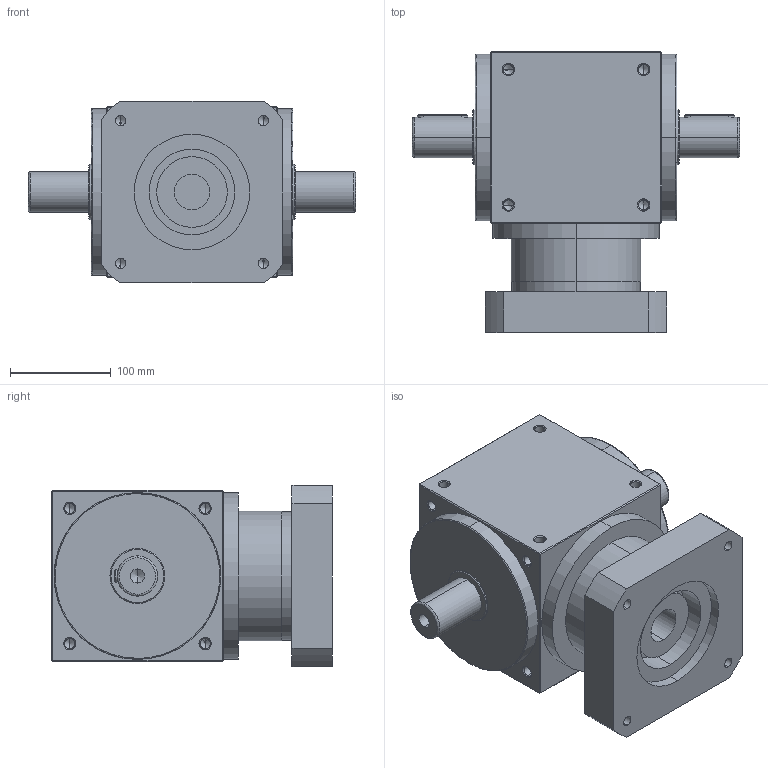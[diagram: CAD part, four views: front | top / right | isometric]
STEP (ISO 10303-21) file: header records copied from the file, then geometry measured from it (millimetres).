
FILE_DESCRIPTION (( 'STEP AP214' ), '1' );
FILE_NAME ('AT170-FL-001 35-114.3-200-M12.STEP', '2024-06-11T03:07:01', ( '微软用户' ), ( '微软中国' ), 'SwSTEP 2.0', 'SolidWorks 2021', '' );
FILE_SCHEMA (( 'AUTOMOTIVE_DESIGN' ));
Length unit declared in the file: millimetre
Products named in the file (1): AT170-FL-001 35-114.3-200-M12
Bounding box: 324 x 278 x 180 mm (x, y, z)
Volume: 7676256.5 mm3; surface area: 339094.9 mm2
Topology: 1 solids, 1 shells, 288 faces, 716 edges, 396 vertices
Faces by surface type: cylinder 126, cone 100, plane 54, bspline 8
Entity records: 9368 total; most frequent: CARTESIAN_POINT 2001, DIRECTION 1336, ORIENTED_EDGE 1328, EDGE_CURVE 664, AXIS2_PLACEMENT_3D 515, VERTEX_POINT 396, EDGE_LOOP 330, LINE 306
